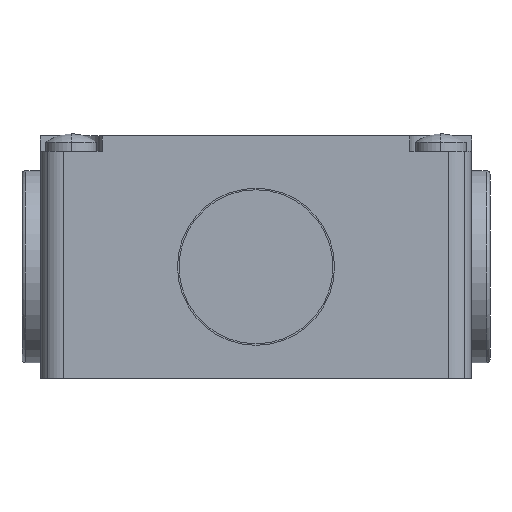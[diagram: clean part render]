
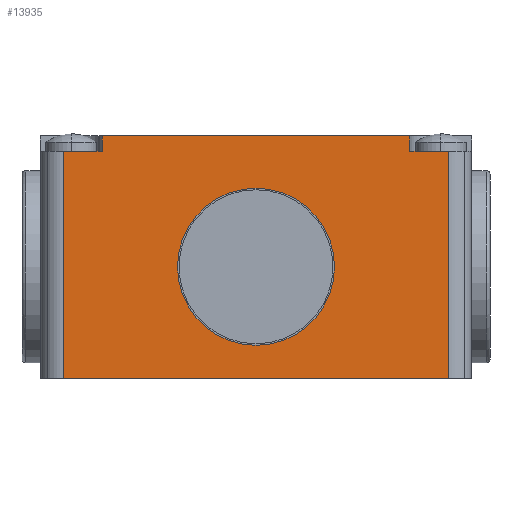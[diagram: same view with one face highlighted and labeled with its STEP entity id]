
A CAD part, front view. The second image highlights one B-rep face of the part: STEP entity #13935.
In plain terms, the highlighted planar face has unit normal (0, -1, 0).
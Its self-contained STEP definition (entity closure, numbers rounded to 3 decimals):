
#481 = VECTOR ( 'NONE', #11901, 1000. ) ;
#588 = DIRECTION ( 'NONE',  ( 0., 0., -1. ) ) ;
#1208 = ORIENTED_EDGE ( 'NONE', *, *, #15614, .F. ) ;
#1527 = DIRECTION ( 'NONE',  ( 0., 0., 1. ) ) ;
#1574 = LINE ( 'NONE', #11606, #16872 ) ;
#1825 = CARTESIAN_POINT ( 'NONE',  ( 0., -56.8, 10.2 ) ) ;
#1851 = EDGE_CURVE ( 'NONE', #11236, #4545, #1574, .T. ) ;
#1889 = FACE_OUTER_BOUND ( 'NONE', #11962, .T. ) ;
#1981 = LINE ( 'NONE', #2069, #17770 ) ;
#2069 = CARTESIAN_POINT ( 'NONE',  ( 28., -56.8, 15. ) ) ;
#2224 = CARTESIAN_POINT ( 'NONE',  ( -25., -56.8, 17. ) ) ;
#2422 = DIRECTION ( 'NONE',  ( 0., 0., 1. ) ) ;
#2533 = ORIENTED_EDGE ( 'NONE', *, *, #16163, .F. ) ;
#2722 = VECTOR ( 'NONE', #18108, 1000. ) ;
#2776 = ORIENTED_EDGE ( 'NONE', *, *, #9969, .T. ) ;
#2889 = ORIENTED_EDGE ( 'NONE', *, *, #12969, .F. ) ;
#2971 = EDGE_CURVE ( 'NONE', #5311, #7355, #17804, .T. ) ;
#3281 = VECTOR ( 'NONE', #1527, 1000. ) ;
#3408 = VERTEX_POINT ( 'NONE', #1825 ) ;
#3735 = VERTEX_POINT ( 'NONE', #10390 ) ;
#3771 = DIRECTION ( 'NONE',  ( 1., 0., 0. ) ) ;
#4206 = CARTESIAN_POINT ( 'NONE',  ( 20., -56.8, 17. ) ) ;
#4545 = VERTEX_POINT ( 'NONE', #17332 ) ;
#4555 = LINE ( 'NONE', #10224, #481 ) ;
#4950 = ORIENTED_EDGE ( 'NONE', *, *, #1851, .F. ) ;
#5272 = DIRECTION ( 'NONE',  ( 0., -1., 0. ) ) ;
#5311 = VERTEX_POINT ( 'NONE', #12495 ) ;
#5503 = VECTOR ( 'NONE', #9491, 1000. ) ;
#5605 = VECTOR ( 'NONE', #7873, 1000. ) ;
#5979 = LINE ( 'NONE', #7995, #5503 ) ;
#6068 = CARTESIAN_POINT ( 'NONE',  ( 25., -56.8, -14.5 ) ) ;
#6794 = AXIS2_PLACEMENT_3D ( 'NONE', #10940, #7845, #14041 ) ;
#7355 = VERTEX_POINT ( 'NONE', #4206 ) ;
#7817 = LINE ( 'NONE', #6068, #3281 ) ;
#7845 = DIRECTION ( 'NONE',  ( 0., -1., 0. ) ) ;
#7873 = DIRECTION ( 'NONE',  ( 0., 0., 1. ) ) ;
#7995 = CARTESIAN_POINT ( 'NONE',  ( -25., -56.8, -14.5 ) ) ;
#8712 = VERTEX_POINT ( 'NONE', #17382 ) ;
#9491 = DIRECTION ( 'NONE',  ( 1., 0., 0. ) ) ;
#9518 = VERTEX_POINT ( 'NONE', #14569 ) ;
#9694 = DIRECTION ( 'NONE',  ( 0., -1., 0. ) ) ;
#9881 = LINE ( 'NONE', #2224, #13495 ) ;
#9969 = EDGE_CURVE ( 'NONE', #8712, #5311, #1981, .T. ) ;
#10224 = CARTESIAN_POINT ( 'NONE',  ( -28., -56.8, 15. ) ) ;
#10390 = CARTESIAN_POINT ( 'NONE',  ( -20., -56.8, 15. ) ) ;
#10506 = EDGE_CURVE ( 'NONE', #3735, #19643, #14619, .T. ) ;
#10910 = CARTESIAN_POINT ( 'NONE',  ( 20., -56.8, 15. ) ) ;
#10940 = CARTESIAN_POINT ( 'NONE',  ( -25., -56.8, -14.5 ) ) ;
#10963 = AXIS2_PLACEMENT_3D ( 'NONE', #14407, #5272, #15958 ) ;
#11236 = VERTEX_POINT ( 'NONE', #17816 ) ;
#11606 = CARTESIAN_POINT ( 'NONE',  ( -25., -56.8, -14.5 ) ) ;
#11901 = DIRECTION ( 'NONE',  ( 1., 0., 0. ) ) ;
#11962 = EDGE_LOOP ( 'NONE', ( #14349, #12351, #2776, #15907, #2533, #18883, #16975, #4950 ) ) ;
#12351 = ORIENTED_EDGE ( 'NONE', *, *, #15509, .T. ) ;
#12495 = CARTESIAN_POINT ( 'NONE',  ( 20., -56.8, 15. ) ) ;
#12506 = PLANE ( 'NONE',  #6794 ) ;
#12707 = VERTEX_POINT ( 'NONE', #17515 ) ;
#12969 = EDGE_CURVE ( 'NONE', #3408, #9518, #14338, .T. ) ;
#13377 = EDGE_CURVE ( 'NONE', #11236, #12707, #5979, .T. ) ;
#13495 = VECTOR ( 'NONE', #3771, 1000. ) ;
#13732 = CARTESIAN_POINT ( 'NONE',  ( -20., -56.8, 17. ) ) ;
#13935 = ADVANCED_FACE ( 'NONE', ( #17680, #1889 ), #12506, .T. ) ;
#14041 = DIRECTION ( 'NONE',  ( 0., 0., -1. ) ) ;
#14338 = CIRCLE ( 'NONE', #10963, 10.2 ) ;
#14349 = ORIENTED_EDGE ( 'NONE', *, *, #13377, .T. ) ;
#14407 = CARTESIAN_POINT ( 'NONE',  ( 0., -56.8, 0. ) ) ;
#14489 = CIRCLE ( 'NONE', #19152, 10.2 ) ;
#14569 = CARTESIAN_POINT ( 'NONE',  ( 0., -56.8, -10.2 ) ) ;
#14619 = LINE ( 'NONE', #16562, #2722 ) ;
#15509 = EDGE_CURVE ( 'NONE', #12707, #8712, #7817, .T. ) ;
#15614 = EDGE_CURVE ( 'NONE', #9518, #3408, #14489, .T. ) ;
#15907 = ORIENTED_EDGE ( 'NONE', *, *, #2971, .T. ) ;
#15958 = DIRECTION ( 'NONE',  ( 0., 0., -1. ) ) ;
#16163 = EDGE_CURVE ( 'NONE', #19643, #7355, #9881, .T. ) ;
#16562 = CARTESIAN_POINT ( 'NONE',  ( -20., -56.8, 15. ) ) ;
#16775 = EDGE_LOOP ( 'NONE', ( #1208, #2889 ) ) ;
#16872 = VECTOR ( 'NONE', #2422, 1000. ) ;
#16975 = ORIENTED_EDGE ( 'NONE', *, *, #18989, .F. ) ;
#17309 = DIRECTION ( 'NONE',  ( -1., 0., 0. ) ) ;
#17332 = CARTESIAN_POINT ( 'NONE',  ( -25., -56.8, 15. ) ) ;
#17382 = CARTESIAN_POINT ( 'NONE',  ( 25., -56.8, 15. ) ) ;
#17515 = CARTESIAN_POINT ( 'NONE',  ( 25., -56.8, -14.5 ) ) ;
#17680 = FACE_BOUND ( 'NONE', #16775, .T. ) ;
#17770 = VECTOR ( 'NONE', #17309, 1000. ) ;
#17804 = LINE ( 'NONE', #10910, #5605 ) ;
#17816 = CARTESIAN_POINT ( 'NONE',  ( -25., -56.8, -14.5 ) ) ;
#18108 = DIRECTION ( 'NONE',  ( 0., 0., 1. ) ) ;
#18875 = CARTESIAN_POINT ( 'NONE',  ( 0., -56.8, 0. ) ) ;
#18883 = ORIENTED_EDGE ( 'NONE', *, *, #10506, .F. ) ;
#18989 = EDGE_CURVE ( 'NONE', #4545, #3735, #4555, .T. ) ;
#19152 = AXIS2_PLACEMENT_3D ( 'NONE', #18875, #9694, #588 ) ;
#19643 = VERTEX_POINT ( 'NONE', #13732 ) ;
